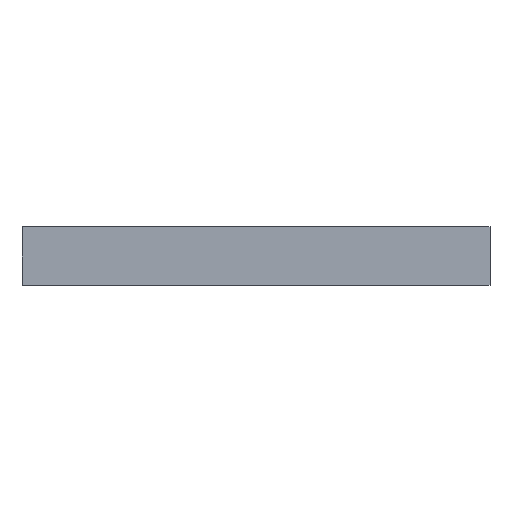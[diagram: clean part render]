
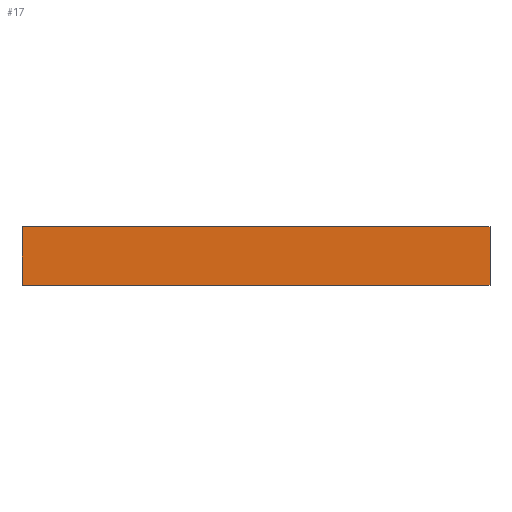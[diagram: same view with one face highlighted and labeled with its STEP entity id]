
A CAD part, front view. The second image highlights one B-rep face of the part: STEP entity #17.
In plain terms, the highlighted planar face has unit normal (0, -1, 0).
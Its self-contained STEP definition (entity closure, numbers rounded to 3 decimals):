
#17 = ADVANCED_FACE('',(#18),#32,.F.);
#18 = FACE_BOUND('',#19,.F.);
#19 = EDGE_LOOP('',(#20,#55,#83,#111));
#20 = ORIENTED_EDGE('',*,*,#21,.F.);
#21 = EDGE_CURVE('',#22,#24,#26,.T.);
#22 = VERTEX_POINT('',#23);
#23 = CARTESIAN_POINT('',(8.,-40.,0.));
#24 = VERTEX_POINT('',#25);
#25 = CARTESIAN_POINT('',(8.,-40.,2.));
#26 = SURFACE_CURVE('',#27,(#31,#43),.PCURVE_S1.);
#27 = LINE('',#28,#29);
#28 = CARTESIAN_POINT('',(8.,-40.,0.));
#29 = VECTOR('',#30,1.);
#30 = DIRECTION('',(0.,0.,1.));
#31 = PCURVE('',#32,#37);
#32 = PLANE('',#33);
#33 = AXIS2_PLACEMENT_3D('',#34,#35,#36);
#34 = CARTESIAN_POINT('',(8.,-40.,0.));
#35 = DIRECTION('',(0.,1.,0.));
#36 = DIRECTION('',(0.,0.,1.));
#37 = DEFINITIONAL_REPRESENTATION('',(#38),#42);
#38 = LINE('',#39,#40);
#39 = CARTESIAN_POINT('',(0.,0.));
#40 = VECTOR('',#41,1.);
#41 = DIRECTION('',(1.,0.));
#42 = ( GEOMETRIC_REPRESENTATION_CONTEXT(2) 
PARAMETRIC_REPRESENTATION_CONTEXT() REPRESENTATION_CONTEXT('2D SPACE',''
  ) );
#43 = PCURVE('',#44,#49);
#44 = PLANE('',#45);
#45 = AXIS2_PLACEMENT_3D('',#46,#47,#48);
#46 = CARTESIAN_POINT('',(8.,-40.,0.));
#47 = DIRECTION('',(-1.,0.,0.));
#48 = DIRECTION('',(0.,0.,1.));
#49 = DEFINITIONAL_REPRESENTATION('',(#50),#54);
#50 = LINE('',#51,#52);
#51 = CARTESIAN_POINT('',(0.,0.));
#52 = VECTOR('',#53,1.);
#53 = DIRECTION('',(1.,0.));
#54 = ( GEOMETRIC_REPRESENTATION_CONTEXT(2) 
PARAMETRIC_REPRESENTATION_CONTEXT() REPRESENTATION_CONTEXT('2D SPACE',''
  ) );
#55 = ORIENTED_EDGE('',*,*,#56,.T.);
#56 = EDGE_CURVE('',#22,#57,#59,.T.);
#57 = VERTEX_POINT('',#58);
#58 = CARTESIAN_POINT('',(-8.,-40.,0.));
#59 = SURFACE_CURVE('',#60,(#64,#71),.PCURVE_S1.);
#60 = LINE('',#61,#62);
#61 = CARTESIAN_POINT('',(8.,-40.,0.));
#62 = VECTOR('',#63,1.);
#63 = DIRECTION('',(-1.,0.,0.));
#64 = PCURVE('',#32,#65);
#65 = DEFINITIONAL_REPRESENTATION('',(#66),#70);
#66 = LINE('',#67,#68);
#67 = CARTESIAN_POINT('',(0.,0.));
#68 = VECTOR('',#69,1.);
#69 = DIRECTION('',(0.,-1.));
#70 = ( GEOMETRIC_REPRESENTATION_CONTEXT(2) 
PARAMETRIC_REPRESENTATION_CONTEXT() REPRESENTATION_CONTEXT('2D SPACE',''
  ) );
#71 = PCURVE('',#72,#77);
#72 = PLANE('',#73);
#73 = AXIS2_PLACEMENT_3D('',#74,#75,#76);
#74 = CARTESIAN_POINT('',(8.,-40.,0.));
#75 = DIRECTION('',(0.,0.,1.));
#76 = DIRECTION('',(0.,1.,0.));
#77 = DEFINITIONAL_REPRESENTATION('',(#78),#82);
#78 = LINE('',#79,#80);
#79 = CARTESIAN_POINT('',(0.,0.));
#80 = VECTOR('',#81,1.);
#81 = DIRECTION('',(0.,1.));
#82 = ( GEOMETRIC_REPRESENTATION_CONTEXT(2) 
PARAMETRIC_REPRESENTATION_CONTEXT() REPRESENTATION_CONTEXT('2D SPACE',''
  ) );
#83 = ORIENTED_EDGE('',*,*,#84,.T.);
#84 = EDGE_CURVE('',#57,#85,#87,.T.);
#85 = VERTEX_POINT('',#86);
#86 = CARTESIAN_POINT('',(-8.,-40.,2.));
#87 = SURFACE_CURVE('',#88,(#92,#99),.PCURVE_S1.);
#88 = LINE('',#89,#90);
#89 = CARTESIAN_POINT('',(-8.,-40.,0.));
#90 = VECTOR('',#91,1.);
#91 = DIRECTION('',(0.,0.,1.));
#92 = PCURVE('',#32,#93);
#93 = DEFINITIONAL_REPRESENTATION('',(#94),#98);
#94 = LINE('',#95,#96);
#95 = CARTESIAN_POINT('',(0.,-16.));
#96 = VECTOR('',#97,1.);
#97 = DIRECTION('',(1.,0.));
#98 = ( GEOMETRIC_REPRESENTATION_CONTEXT(2) 
PARAMETRIC_REPRESENTATION_CONTEXT() REPRESENTATION_CONTEXT('2D SPACE',''
  ) );
#99 = PCURVE('',#100,#105);
#100 = PLANE('',#101);
#101 = AXIS2_PLACEMENT_3D('',#102,#103,#104);
#102 = CARTESIAN_POINT('',(-8.,-40.,0.));
#103 = DIRECTION('',(-1.,0.,0.));
#104 = DIRECTION('',(0.,0.,1.));
#105 = DEFINITIONAL_REPRESENTATION('',(#106),#110);
#106 = LINE('',#107,#108);
#107 = CARTESIAN_POINT('',(0.,0.));
#108 = VECTOR('',#109,1.);
#109 = DIRECTION('',(1.,0.));
#110 = ( GEOMETRIC_REPRESENTATION_CONTEXT(2) 
PARAMETRIC_REPRESENTATION_CONTEXT() REPRESENTATION_CONTEXT('2D SPACE',''
  ) );
#111 = ORIENTED_EDGE('',*,*,#112,.F.);
#112 = EDGE_CURVE('',#24,#85,#113,.T.);
#113 = SURFACE_CURVE('',#114,(#118,#125),.PCURVE_S1.);
#114 = LINE('',#115,#116);
#115 = CARTESIAN_POINT('',(8.,-40.,2.));
#116 = VECTOR('',#117,1.);
#117 = DIRECTION('',(-1.,0.,0.));
#118 = PCURVE('',#32,#119);
#119 = DEFINITIONAL_REPRESENTATION('',(#120),#124);
#120 = LINE('',#121,#122);
#121 = CARTESIAN_POINT('',(2.,0.));
#122 = VECTOR('',#123,1.);
#123 = DIRECTION('',(0.,-1.));
#124 = ( GEOMETRIC_REPRESENTATION_CONTEXT(2) 
PARAMETRIC_REPRESENTATION_CONTEXT() REPRESENTATION_CONTEXT('2D SPACE',''
  ) );
#125 = PCURVE('',#126,#131);
#126 = PLANE('',#127);
#127 = AXIS2_PLACEMENT_3D('',#128,#129,#130);
#128 = CARTESIAN_POINT('',(8.,-40.,2.));
#129 = DIRECTION('',(0.,0.,1.));
#130 = DIRECTION('',(0.,1.,0.));
#131 = DEFINITIONAL_REPRESENTATION('',(#132),#136);
#132 = LINE('',#133,#134);
#133 = CARTESIAN_POINT('',(0.,0.));
#134 = VECTOR('',#135,1.);
#135 = DIRECTION('',(0.,1.));
#136 = ( GEOMETRIC_REPRESENTATION_CONTEXT(2) 
PARAMETRIC_REPRESENTATION_CONTEXT() REPRESENTATION_CONTEXT('2D SPACE',''
  ) );
